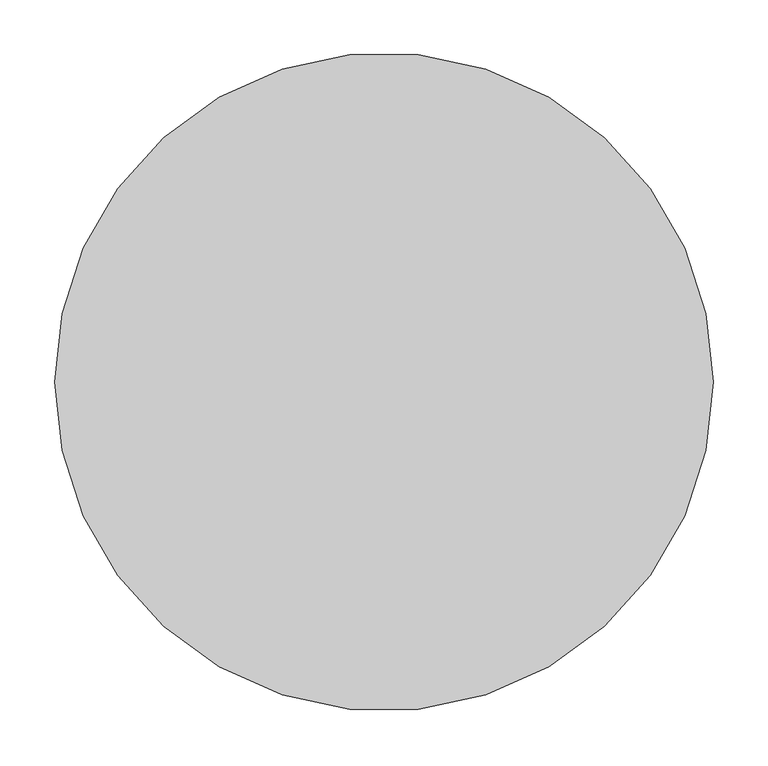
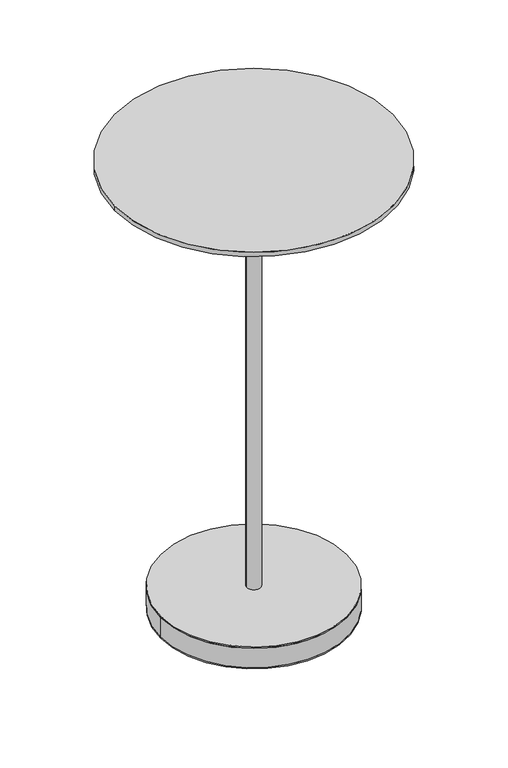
"""IFC4 building model written with IfcOpenShell, lengths in millimetres: furniture geometry, Bar table_Friendly : Bar table_Friendly."""

from ifc_helpers import new_model, si_unit, point, frame, origin, origin_with_axes, origin_2d, place, context, project, spatial, circle_curve, trimmed, segment, composite_curve, outline, extrude, source, transform, mapped, element, save


def furniture_0e16feae(model_context):
    return source(origin(), model_context, "Body", "SweptSolid", [
        extrude(outline(composite_curve([segment(trimmed(circle_curve(origin_2d(), 201.0), [point((-201.0, 0.0))], [point((201.0, 0.0))], False, "CARTESIAN"), True, "CONTINUOUS"), segment(trimmed(circle_curve(origin_2d(), 201.0), [point((201.0, 0.0))], [point((-201.0, 0.0))], False, "CARTESIAN"), True, "CONTINUOUS")], self_intersect=False)), frame((0.0, 0.0, 3.0), z_axis=(0.0, 0.0, 1.0), x_axis=(1.0, 0.0, 0.0)), (0.0, 0.0, 1.0), 44.0),
        extrude(outline(composite_curve([segment(trimmed(circle_curve(origin_2d(), 201.0), [point((-201.0, 0.0))], [point((201.0, 0.0))], False, "CARTESIAN"), True, "CONTINUOUS"), segment(trimmed(circle_curve(origin_2d(), 201.0), [point((201.0, 0.0))], [point((-201.0, 0.0))], False, "CARTESIAN"), True, "CONTINUOUS")], self_intersect=False)), origin_with_axes(), (0.0, 0.0, 1.0), 3.0),
        extrude(outline(composite_curve([segment(trimmed(circle_curve(origin_2d(), 201.0), [point((-201.0, 0.0))], [point((201.0, 0.0))], False, "CARTESIAN"), True, "CONTINUOUS"), segment(trimmed(circle_curve(origin_2d(), 201.0), [point((201.0, 0.0))], [point((-201.0, 0.0))], False, "CARTESIAN"), True, "CONTINUOUS")], self_intersect=False)), frame((0.0, 0.0, 47.0), z_axis=(0.0, 0.0, 1.0), x_axis=(1.0, 0.0, 0.0)), (0.0, 0.0, 1.0), 3.0),
        extrude(outline(composite_curve([segment(trimmed(circle_curve(origin_2d(), 15.0), [point((-15.0, 0.0))], [point((15.0, 0.0))], False, "CARTESIAN"), True, "CONTINUOUS"), segment(trimmed(circle_curve(origin_2d(), 15.0), [point((15.0, 0.0))], [point((-15.0, 0.0))], False, "CARTESIAN"), True, "CONTINUOUS")], self_intersect=False)), frame((0.0, 0.0, 50.0), z_axis=(0.0, 0.0, 1.0), x_axis=(1.0, 0.0, 0.0)), (0.0, 0.0, 1.0), 960.0),
        extrude(outline(composite_curve([segment(trimmed(circle_curve(origin_2d(), 300.0), [point((-300.0, 0.0))], [point((300.0, 0.0))], False, "CARTESIAN"), True, "CONTINUOUS"), segment(trimmed(circle_curve(origin_2d(), 300.0), [point((300.0, 0.0))], [point((-300.0, 0.0))], False, "CARTESIAN"), True, "CONTINUOUS")], self_intersect=False)), frame((0.0, 0.0, 1010.0), z_axis=(0.0, 0.0, 1.0), x_axis=(1.0, 0.0, 0.0)), (0.0, 0.0, 1.0), 10.0),
    ])


if __name__ == "__main__":
    model = new_model("IFC4")
    model_context = context("Model", 3, world=origin())
    ifc_project = project(units=[si_unit("LENGTHUNIT", "METRE", prefix="MILLI")], contexts=[model_context])
    site = spatial("IfcSite", under=ifc_project)
    building = spatial("IfcBuilding", under=site)
    placement = place(None, origin())
    furniture_shape = furniture_0e16feae(model_context)
    element("IfcFurniture", 1, ObjectType="Bar table_Friendly : Bar table_Friendly", at=placement, inside=building, context=model_context, shape_type="MappedRepresentation", body=[
        mapped(furniture_shape, transform((0.0, 0.0, 0.0), x_axis=(1.0, 0.0, 0.0), y_axis=(0.0, 1.0, 0.0), z_axis=(0.0, 0.0, 1.0))),
    ])
    save(model, "model.ifc")
